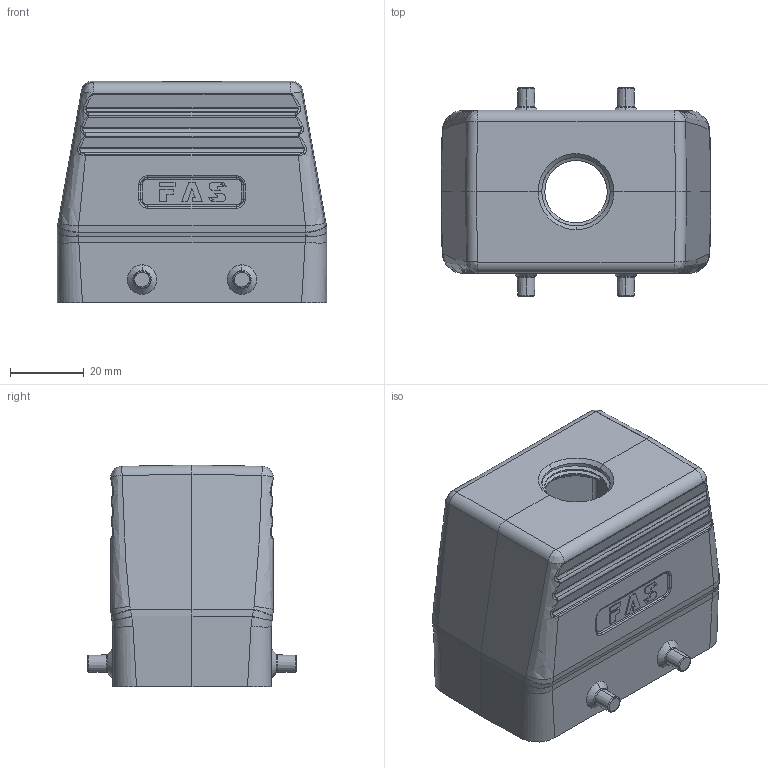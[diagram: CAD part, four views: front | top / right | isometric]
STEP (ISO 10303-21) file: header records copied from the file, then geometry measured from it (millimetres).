
FILE_DESCRIPTION (( 'STEP AP203' ), '1' );
FILE_NAME ('H10B-TG-M20.STEP', '2020-11-20T06:45:14', ( '' ), ( '' ), 'SwSTEP 2.0', 'SolidWorks 2016', '' );
FILE_SCHEMA (( 'CONFIG_CONTROL_DESIGN' ));
Length unit declared in the file: millimetre
Products named in the file (1): H10B-TG-M20
Bounding box: 73 x 56.4 x 60 mm (x, y, z)
Volume: 61066.7 mm3; surface area: 28690.4 mm2
Topology: 1 solids, 1 shells, 529 faces, 1294 edges, 795 vertices
Faces by surface type: bspline 171, plane 170, cylinder 146, cone 42
Entity records: 25059 total; most frequent: CARTESIAN_POINT 14035, ORIENTED_EDGE 2588, DIRECTION 1838, EDGE_CURVE 1294, VERTEX_POINT 795, AXIS2_PLACEMENT_3D 643, EDGE_LOOP 559, VECTOR 552
